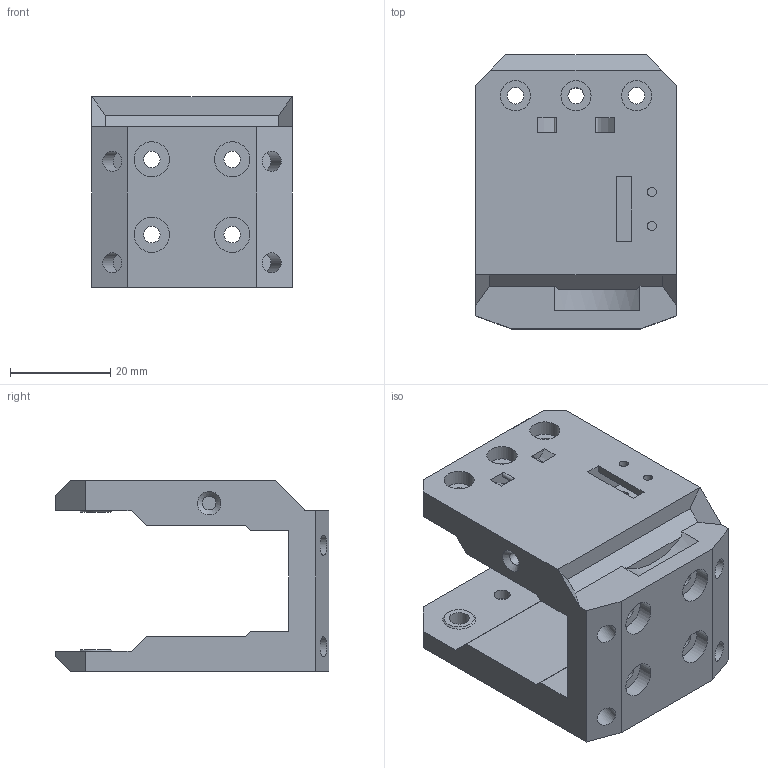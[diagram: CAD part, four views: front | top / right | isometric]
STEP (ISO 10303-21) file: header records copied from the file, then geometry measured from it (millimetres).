
FILE_DESCRIPTION(/* description */ ('CAx-IF Rec.Pracs.---Representation and Presentation of Product Manufacturing Information (PMI)---4.0---2014-10-13','CAx-IF Rec.Pracs.---3D Tessellated Geometry---0.4---2014-09-14','2;1'),/* implementation_level */ '2;1');
FILE_NAME(/* name */ 'Bereza 1 W carriage',/* time_stamp */ '2025-06-16T17:40:59+03:00',/* author */ (''),/* organization */ (''),/* preprocessor_version */ 'ST-DEVELOPER v20',/* originating_system */ 'SIEMENS PLM Software NX2406.6001',/* authorisation */ $);
FILE_SCHEMA (('AP242_MANAGED_MODEL_BASED_3D_ENGINEERING_MIM_LF { 1 0 10303 442 3 1 4 }'));
Length unit declared in the file: millimetre
Products named in the file (1): Bereza 1 W carriage
Bounding box: 40 x 54.5 x 38 mm (x, y, z)
Volume: 32112.9 mm3; surface area: 14126.9 mm2
Topology: 1 solids, 1 shells, 106 faces, 276 edges, 188 vertices
Faces by surface type: plane 61, cylinder 39, cone 6
Full cylindrical faces by diameter (mm): 1.8 x4, 2.7 x1, 3.2 x2, 3.3 x6, 4 x6, 6 x3, 7 x4
Entity records: 3116 total; most frequent: DIRECTION 534, CARTESIAN_POINT 513, ORIENTED_EDGE 460, EDGE_CURVE 230, AXIS2_PLACEMENT_3D 197, EDGE_LOOP 190, FACE_BOUND 190, VERTEX_POINT 174
